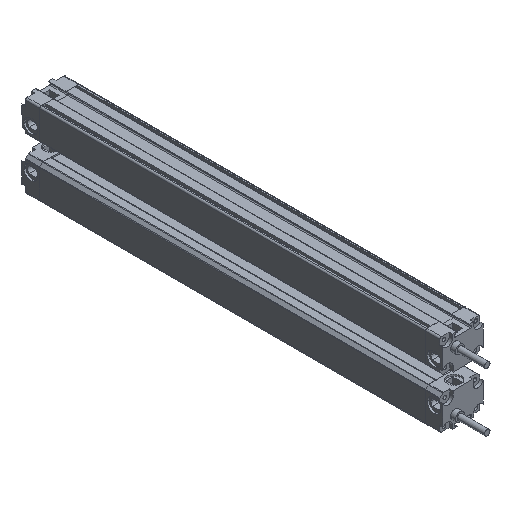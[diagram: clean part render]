
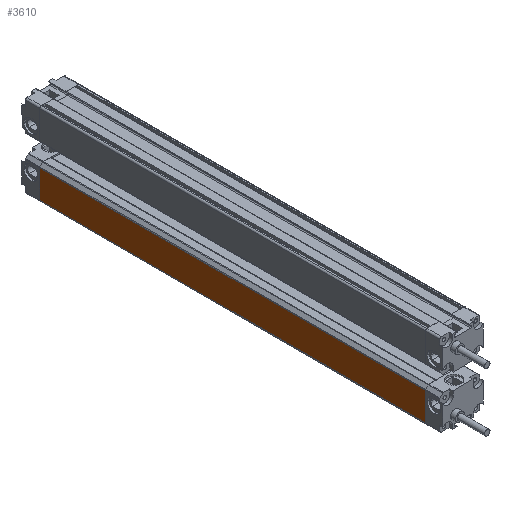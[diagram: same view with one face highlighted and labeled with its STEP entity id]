
A CAD part, isometric view. The second image highlights one B-rep face of the part: STEP entity #3610.
In plain terms, the highlighted planar face has unit normal (-1, 0, 0).
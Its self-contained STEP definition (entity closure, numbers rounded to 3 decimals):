
#725 = ORIENTED_EDGE ( 'NONE', *, *, #3648, .F. ) ;
#728 = VECTOR ( 'NONE', #2869, 1000. ) ;
#1109 = VERTEX_POINT ( 'NONE', #7287 ) ;
#1140 = DIRECTION ( 'NONE',  ( 0., 0., 1. ) ) ;
#1921 = VECTOR ( 'NONE', #8001, 1000. ) ;
#2024 = VERTEX_POINT ( 'NONE', #3796 ) ;
#2199 = DIRECTION ( 'NONE',  ( 0., 0., 1. ) ) ;
#2523 = LINE ( 'NONE', #7198, #9505 ) ;
#2843 = DIRECTION ( 'NONE',  ( -1., 0., 0. ) ) ;
#2851 = EDGE_CURVE ( 'NONE', #6637, #6481, #7875, .T. ) ;
#2869 = DIRECTION ( 'NONE',  ( 0., 1., 0. ) ) ;
#2961 = LINE ( 'NONE', #7897, #728 ) ;
#3251 = VECTOR ( 'NONE', #5793, 1000. ) ;
#3610 = ADVANCED_FACE ( 'NONE', ( #9423 ), #7012, .T. ) ;
#3648 = EDGE_CURVE ( 'NONE', #1109, #2024, #2961, .T. ) ;
#3796 = CARTESIAN_POINT ( 'NONE',  ( -12.5, 0., -9.2 ) ) ;
#4435 = LINE ( 'NONE', #10863, #3251 ) ;
#4847 = ORIENTED_EDGE ( 'NONE', *, *, #2851, .T. ) ;
#5062 = EDGE_CURVE ( 'NONE', #2024, #6481, #2523, .T. ) ;
#5253 = AXIS2_PLACEMENT_3D ( 'NONE', #10354, #2843, #1140 ) ;
#5793 = DIRECTION ( 'NONE',  ( 0., 0., 1. ) ) ;
#6033 = EDGE_LOOP ( 'NONE', ( #6616, #725, #10809, #4847 ) ) ;
#6152 = CARTESIAN_POINT ( 'NONE',  ( -12.5, -240., 8.293 ) ) ;
#6481 = VERTEX_POINT ( 'NONE', #7554 ) ;
#6616 = ORIENTED_EDGE ( 'NONE', *, *, #5062, .F. ) ;
#6637 = VERTEX_POINT ( 'NONE', #6152 ) ;
#7012 = PLANE ( 'NONE',  #5253 ) ;
#7198 = CARTESIAN_POINT ( 'NONE',  ( -12.5, 0., -9.2 ) ) ;
#7287 = CARTESIAN_POINT ( 'NONE',  ( -12.5, -240., -9.2 ) ) ;
#7554 = CARTESIAN_POINT ( 'NONE',  ( -12.5, 0., 8.293 ) ) ;
#7704 = EDGE_CURVE ( 'NONE', #1109, #6637, #4435, .T. ) ;
#7875 = LINE ( 'NONE', #9709, #1921 ) ;
#7897 = CARTESIAN_POINT ( 'NONE',  ( -12.5, -240., -9.2 ) ) ;
#8001 = DIRECTION ( 'NONE',  ( 0., 1., 0. ) ) ;
#9423 = FACE_OUTER_BOUND ( 'NONE', #6033, .T. ) ;
#9505 = VECTOR ( 'NONE', #2199, 1000. ) ;
#9709 = CARTESIAN_POINT ( 'NONE',  ( -12.5, -240., 8.293 ) ) ;
#10354 = CARTESIAN_POINT ( 'NONE',  ( -12.5, -240., -9.2 ) ) ;
#10809 = ORIENTED_EDGE ( 'NONE', *, *, #7704, .T. ) ;
#10863 = CARTESIAN_POINT ( 'NONE',  ( -12.5, -240., -9.2 ) ) ;
